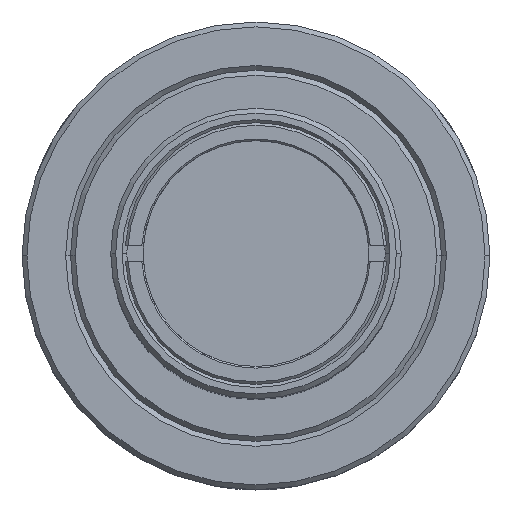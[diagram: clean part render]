
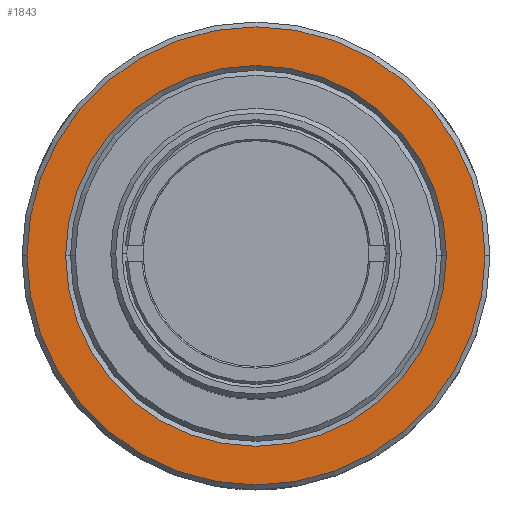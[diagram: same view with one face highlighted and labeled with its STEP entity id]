
A CAD part, top view. The second image highlights one B-rep face of the part: STEP entity #1843.
In plain terms, the highlighted planar face has unit normal (0, 0, 1).
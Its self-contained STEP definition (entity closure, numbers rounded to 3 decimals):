
#163 = VERTEX_POINT ( 'NONE', #2200 ) ;
#496 = EDGE_CURVE ( 'NONE', #497, #163, #3035, .T. ) ;
#497 = VERTEX_POINT ( 'NONE', #3053 ) ;
#634 = VERTEX_POINT ( 'NONE', #2703 ) ;
#644 = VERTEX_POINT ( 'NONE', #2814 ) ;
#727 = EDGE_CURVE ( 'NONE', #644, #634, #3267, .T. ) ;
#1714 = ORIENTED_EDGE ( 'NONE', *, *, #727, .T. ) ;
#1716 = EDGE_LOOP ( 'NONE', ( #1714, #1836 ) ) ;
#1799 = ORIENTED_EDGE ( 'NONE', *, *, #1837, .T. ) ;
#1835 = EDGE_LOOP ( 'NONE', ( #1799, #1838 ) ) ;
#1836 = ORIENTED_EDGE ( 'NONE', *, *, #1840, .T. ) ;
#1837 = EDGE_CURVE ( 'NONE', #163, #497, #5191, .T. ) ;
#1838 = ORIENTED_EDGE ( 'NONE', *, *, #496, .T. ) ;
#1840 = EDGE_CURVE ( 'NONE', #634, #644, #5183, .T. ) ;
#1843 = ADVANCED_FACE ( 'NONE', ( #5196, #5186 ), #5112, .F. ) ;
#2200 = CARTESIAN_POINT ( 'NONE',  ( -14.2, 0., -29.777 ) ) ;
#2703 = CARTESIAN_POINT ( 'NONE',  ( -11.8, 0., -29.777 ) ) ;
#2814 = CARTESIAN_POINT ( 'NONE',  ( 11.8, 0., -29.777 ) ) ;
#2906 = CARTESIAN_POINT ( 'NONE',  ( 0., 0., -29.777 ) ) ;
#3035 = CIRCLE ( 'NONE', #3047, 14.2 ) ;
#3037 = DIRECTION ( 'NONE',  ( -1., 0., 0. ) ) ;
#3038 = DIRECTION ( 'NONE',  ( 0., 0., 1. ) ) ;
#3047 = AXIS2_PLACEMENT_3D ( 'NONE', #2906, #3038, #3037 ) ;
#3053 = CARTESIAN_POINT ( 'NONE',  ( 14.2, 0., -29.777 ) ) ;
#3264 = DIRECTION ( 'NONE',  ( -1., 0., 0. ) ) ;
#3265 = DIRECTION ( 'NONE',  ( 0., 0., -1. ) ) ;
#3266 = AXIS2_PLACEMENT_3D ( 'NONE', #3318, #3265, #3264 ) ;
#3267 = CIRCLE ( 'NONE', #3266, 11.8 ) ;
#3318 = CARTESIAN_POINT ( 'NONE',  ( 0., 0., -29.777 ) ) ;
#5112 = PLANE ( 'NONE',  #5192 ) ;
#5178 = DIRECTION ( 'NONE',  ( -1., 0., 0. ) ) ;
#5180 = DIRECTION ( 'NONE',  ( -1., 0., 0. ) ) ;
#5181 = DIRECTION ( 'NONE',  ( 0., 0., -1. ) ) ;
#5182 = AXIS2_PLACEMENT_3D ( 'NONE', #5193, #5181, #5180 ) ;
#5183 = CIRCLE ( 'NONE', #5182, 11.8 ) ;
#5186 = FACE_OUTER_BOUND ( 'NONE', #1835, .T. ) ;
#5187 = DIRECTION ( 'NONE',  ( -1., 0., 0. ) ) ;
#5188 = DIRECTION ( 'NONE',  ( 0., 0., 1. ) ) ;
#5189 = CARTESIAN_POINT ( 'NONE',  ( 0., 0., -29.777 ) ) ;
#5190 = AXIS2_PLACEMENT_3D ( 'NONE', #5189, #5188, #5187 ) ;
#5191 = CIRCLE ( 'NONE', #5190, 14.2 ) ;
#5192 = AXIS2_PLACEMENT_3D ( 'NONE', #5195, #5194, #5178 ) ;
#5193 = CARTESIAN_POINT ( 'NONE',  ( 0., 0., -29.777 ) ) ;
#5194 = DIRECTION ( 'NONE',  ( 0., 0., -1. ) ) ;
#5195 = CARTESIAN_POINT ( 'NONE',  ( 0., 11.5, -29.777 ) ) ;
#5196 = FACE_BOUND ( 'NONE', #1716, .T. ) ;
